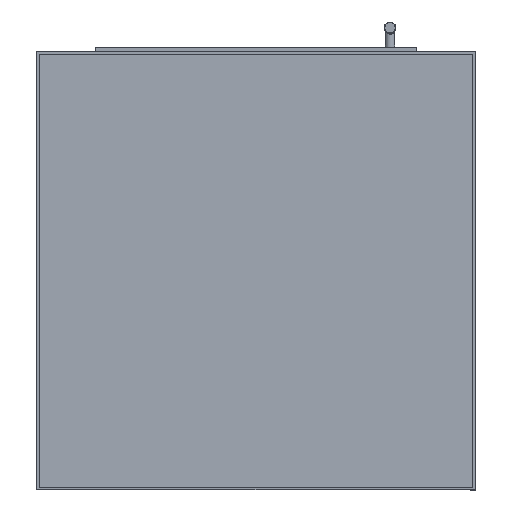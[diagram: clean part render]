
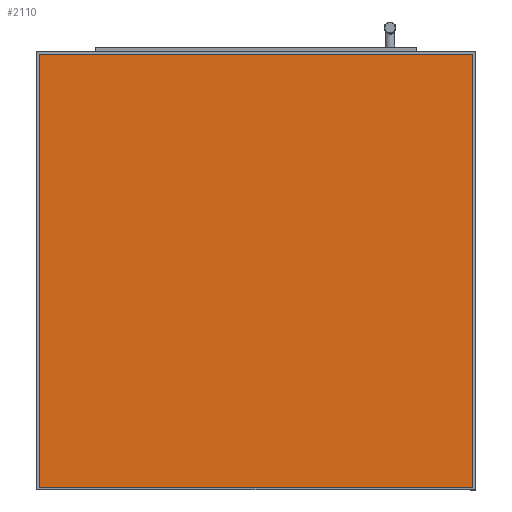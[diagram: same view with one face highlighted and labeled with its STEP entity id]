
A CAD part, front view. The second image highlights one B-rep face of the part: STEP entity #2110.
In plain terms, the highlighted planar face has unit normal (0, -1, 0).
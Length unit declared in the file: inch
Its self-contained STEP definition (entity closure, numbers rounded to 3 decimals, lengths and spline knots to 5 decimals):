
#68=PLANE('',#2276);
#311=LINE('',#4143,#554);
#312=LINE('',#4146,#555);
#313=LINE('',#4148,#556);
#314=LINE('',#4149,#557);
#554=VECTOR('',#2708,0.3937);
#555=VECTOR('',#2711,0.3937);
#556=VECTOR('',#2712,0.3937);
#557=VECTOR('',#2713,0.3937);
#689=FACE_OUTER_BOUND('',#808,.T.);
#808=EDGE_LOOP('',(#1783,#1784,#1785,#1786));
#1068=VERTEX_POINT('',#4136);
#1071=VERTEX_POINT('',#4141);
#1072=VERTEX_POINT('',#4145);
#1073=VERTEX_POINT('',#4147);
#1326=EDGE_CURVE('',#1068,#1071,#311,.T.);
#1327=EDGE_CURVE('',#1072,#1068,#312,.T.);
#1328=EDGE_CURVE('',#1073,#1071,#313,.T.);
#1329=EDGE_CURVE('',#1072,#1073,#314,.T.);
#1783=ORIENTED_EDGE('',*,*,#1327,.T.);
#1784=ORIENTED_EDGE('',*,*,#1326,.T.);
#1785=ORIENTED_EDGE('',*,*,#1328,.F.);
#1786=ORIENTED_EDGE('',*,*,#1329,.F.);
#2110=ADVANCED_FACE('',(#689),#68,.T.);
#2276=AXIS2_PLACEMENT_3D('',#4144,#2709,#2710);
#2708=DIRECTION('',(0.,0.,1.));
#2709=DIRECTION('center_axis',(0.,-1.,0.));
#2710=DIRECTION('ref_axis',(1.,0.,0.));
#2711=DIRECTION('',(1.,0.,0.));
#2712=DIRECTION('',(1.,0.,0.));
#2713=DIRECTION('',(0.,0.,1.));
#4136=CARTESIAN_POINT('',(-28.18868,-1.51105,-1.67822));
#4141=CARTESIAN_POINT('',(-28.18868,-1.51105,44.82178));
#4143=CARTESIAN_POINT('',(-28.18868,-1.51105,-1.67822));
#4144=CARTESIAN_POINT('Origin',(-74.68868,-1.51105,-1.67822));
#4145=CARTESIAN_POINT('',(-74.68868,-1.51105,-1.67822));
#4146=CARTESIAN_POINT('',(-74.68868,-1.51105,-1.67822));
#4147=CARTESIAN_POINT('',(-74.68868,-1.51105,44.82178));
#4148=CARTESIAN_POINT('',(-74.68868,-1.51105,44.82178));
#4149=CARTESIAN_POINT('',(-74.68868,-1.51105,-1.67822));
